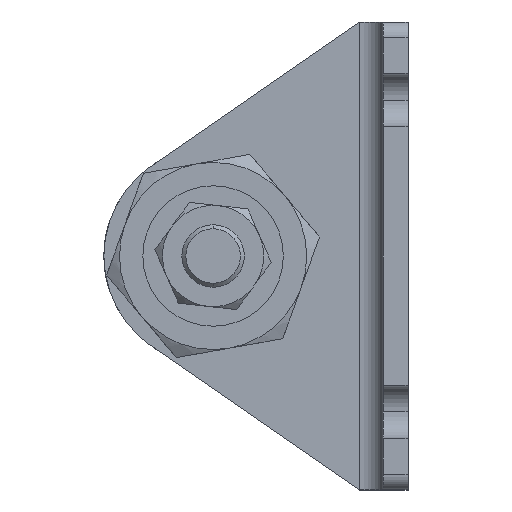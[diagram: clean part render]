
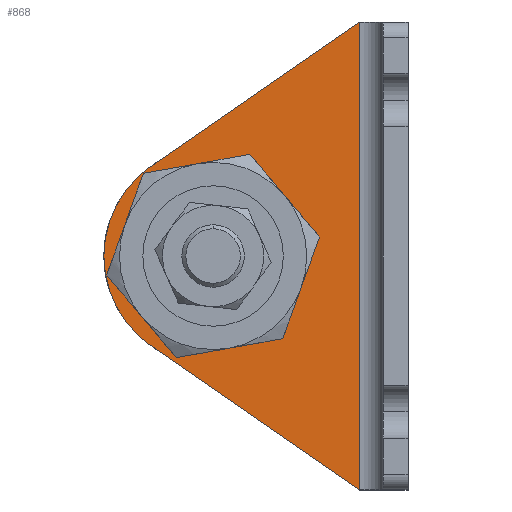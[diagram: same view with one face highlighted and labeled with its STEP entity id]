
A CAD part, left-side view. The second image highlights one B-rep face of the part: STEP entity #868.
In plain terms, the highlighted planar face has unit normal (-1, 0, 0) as drawn and (1, 0, 0) by its records, which use the part's own axes.
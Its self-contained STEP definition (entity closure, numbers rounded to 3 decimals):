
#114 = VECTOR ( 'NONE', #2018, 1000. ) ;
#194 = DIRECTION ( 'NONE',  ( 0., 1., 0. ) ) ;
#301 = EDGE_CURVE ( 'NONE', #4555, #5044, #4002, .T. ) ;
#369 = CARTESIAN_POINT ( 'NONE',  ( 3.2, 6.2, 0. ) ) ;
#385 = ORIENTED_EDGE ( 'NONE', *, *, #2869, .F. ) ;
#695 = EDGE_CURVE ( 'NONE', #4555, #2691, #4279, .T. ) ;
#782 = CARTESIAN_POINT ( 'NONE',  ( 3.2, 34.5, -30. ) ) ;
#823 = DIRECTION ( 'NONE',  ( 0., 0.823, 0.568 ) ) ;
#868 = ADVANCED_FACE ( 'NONE', ( #3239, #2251 ), #4473, .T. ) ;
#909 = DIRECTION ( 'NONE',  ( 0., 1., 0. ) ) ;
#1100 = DIRECTION ( 'NONE',  ( 1., 0., 0. ) ) ;
#1147 = CARTESIAN_POINT ( 'NONE',  ( 3.2, 32.956, -18.481 ) ) ;
#1162 = DIRECTION ( 'NONE',  ( 0., 1., 0. ) ) ;
#1239 = ORIENTED_EDGE ( 'NONE', *, *, #695, .F. ) ;
#1273 = ORIENTED_EDGE ( 'NONE', *, *, #2895, .T. ) ;
#1338 = CARTESIAN_POINT ( 'NONE',  ( 3.2, 32.226, -17.976 ) ) ;
#1384 = CARTESIAN_POINT ( 'NONE',  ( 3.2, 32.956, -41.519 ) ) ;
#1440 = VERTEX_POINT ( 'NONE', #782 ) ;
#1517 = AXIS2_PLACEMENT_3D ( 'NONE', #2910, #1100, #2367 ) ;
#1684 = DIRECTION ( 'NONE',  ( 0., 1., 0. ) ) ;
#1691 = ORIENTED_EDGE ( 'NONE', *, *, #301, .T. ) ;
#1858 = DIRECTION ( 'NONE',  ( 0., 0.823, -0.568 ) ) ;
#1996 = VERTEX_POINT ( 'NONE', #1384 ) ;
#2018 = DIRECTION ( 'NONE',  ( 0., 0., -1. ) ) ;
#2251 = FACE_OUTER_BOUND ( 'NONE', #4936, .T. ) ;
#2354 = ORIENTED_EDGE ( 'NONE', *, *, #5335, .T. ) ;
#2367 = DIRECTION ( 'NONE',  ( 0., 1., 0. ) ) ;
#2388 = AXIS2_PLACEMENT_3D ( 'NONE', #2606, #5320, #1162 ) ;
#2423 = CARTESIAN_POINT ( 'NONE',  ( 3.2, 25., -30. ) ) ;
#2606 = CARTESIAN_POINT ( 'NONE',  ( 3.2, 25., -30. ) ) ;
#2632 = AXIS2_PLACEMENT_3D ( 'NONE', #2423, #5401, #1684 ) ;
#2691 = VERTEX_POINT ( 'NONE', #1147 ) ;
#2794 = EDGE_CURVE ( 'NONE', #1996, #4951, #5163, .T. ) ;
#2796 = CARTESIAN_POINT ( 'NONE',  ( 3.2, 15.5, -30. ) ) ;
#2802 = CIRCLE ( 'NONE', #2388, 9.5 ) ;
#2869 = EDGE_CURVE ( 'NONE', #4650, #1440, #2802, .T. ) ;
#2895 = EDGE_CURVE ( 'NONE', #5044, #1996, #3879, .T. ) ;
#2910 = CARTESIAN_POINT ( 'NONE',  ( 3.2, 25., -30. ) ) ;
#3028 = CARTESIAN_POINT ( 'NONE',  ( 3.2, 6.2, -60. ) ) ;
#3068 = DIRECTION ( 'NONE',  ( 1., 0., 0. ) ) ;
#3139 = AXIS2_PLACEMENT_3D ( 'NONE', #5134, #3230, #909 ) ;
#3192 = EDGE_CURVE ( 'NONE', #1440, #4650, #3956, .T. ) ;
#3230 = DIRECTION ( 'NONE',  ( 1., 0., 0. ) ) ;
#3239 = FACE_BOUND ( 'NONE', #4053, .T. ) ;
#3391 = CIRCLE ( 'NONE', #2632, 14. ) ;
#3429 = VECTOR ( 'NONE', #1858, 1000. ) ;
#3589 = CARTESIAN_POINT ( 'NONE',  ( 3.2, 3.2, -60. ) ) ;
#3829 = CARTESIAN_POINT ( 'NONE',  ( 3.2, 39., -30. ) ) ;
#3879 = LINE ( 'NONE', #4667, #5156 ) ;
#3956 = CIRCLE ( 'NONE', #1517, 9.5 ) ;
#4002 = LINE ( 'NONE', #4429, #114 ) ;
#4028 = AXIS2_PLACEMENT_3D ( 'NONE', #3589, #3068, #194 ) ;
#4053 = EDGE_LOOP ( 'NONE', ( #4925, #385 ) ) ;
#4279 = LINE ( 'NONE', #1338, #3429 ) ;
#4429 = CARTESIAN_POINT ( 'NONE',  ( 3.2, 6.2, -60. ) ) ;
#4473 = PLANE ( 'NONE',  #4028 ) ;
#4555 = VERTEX_POINT ( 'NONE', #369 ) ;
#4650 = VERTEX_POINT ( 'NONE', #2796 ) ;
#4667 = CARTESIAN_POINT ( 'NONE',  ( 3.2, 4.169, -61.403 ) ) ;
#4925 = ORIENTED_EDGE ( 'NONE', *, *, #3192, .F. ) ;
#4936 = EDGE_LOOP ( 'NONE', ( #1273, #5482, #2354, #1239, #1691 ) ) ;
#4951 = VERTEX_POINT ( 'NONE', #3829 ) ;
#5044 = VERTEX_POINT ( 'NONE', #3028 ) ;
#5134 = CARTESIAN_POINT ( 'NONE',  ( 3.2, 25., -30. ) ) ;
#5156 = VECTOR ( 'NONE', #823, 1000. ) ;
#5163 = CIRCLE ( 'NONE', #3139, 14. ) ;
#5320 = DIRECTION ( 'NONE',  ( 1., 0., 0. ) ) ;
#5335 = EDGE_CURVE ( 'NONE', #4951, #2691, #3391, .T. ) ;
#5401 = DIRECTION ( 'NONE',  ( 1., 0., 0. ) ) ;
#5482 = ORIENTED_EDGE ( 'NONE', *, *, #2794, .T. ) ;
